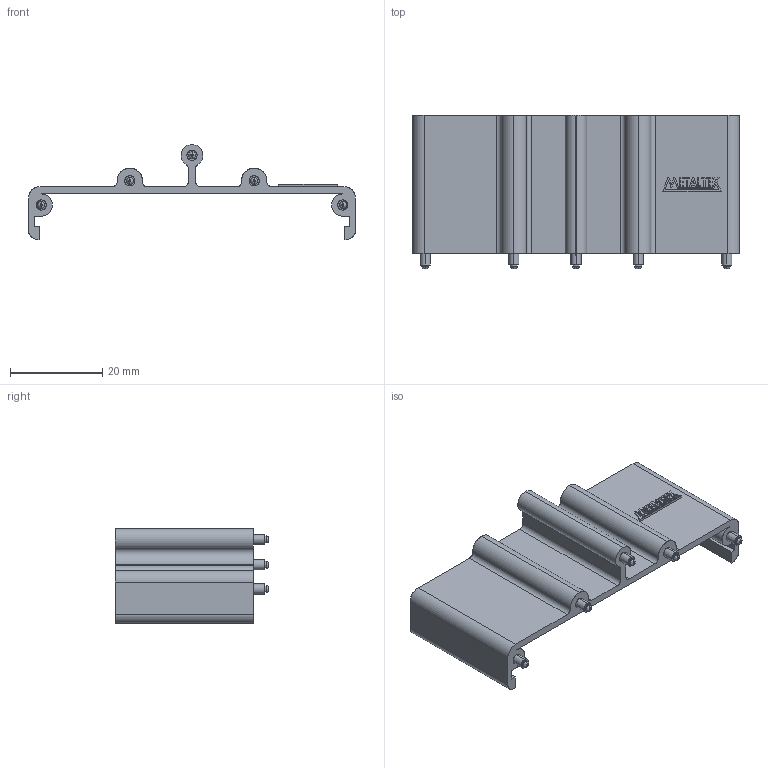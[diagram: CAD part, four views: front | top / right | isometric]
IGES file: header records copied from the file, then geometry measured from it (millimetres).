
Start section: SolidWorks IGES file using analytic representation for surfaces
Global section: file name: D:\X - Arquivos\PROEX\Empresas\P11 - METALTEX\01 - Produtos\IGES\7ª remessa\2ª etapa\SP7-E30.IGS; native system: SolidWorks 2012; preprocessor: SolidWorks 2012; author: Usuario; date: 190912.135240; units: millimetre
Bounding box: 71 x 33.3 x 20.65 mm (x, y, z)
Surface area: 7357.1 mm2 (no closed solid volume)
Topology: 0 solids, 0 shells, 211 faces, 2238 edges, 2238 vertices
Faces by surface type: bspline 151, revolution 60
